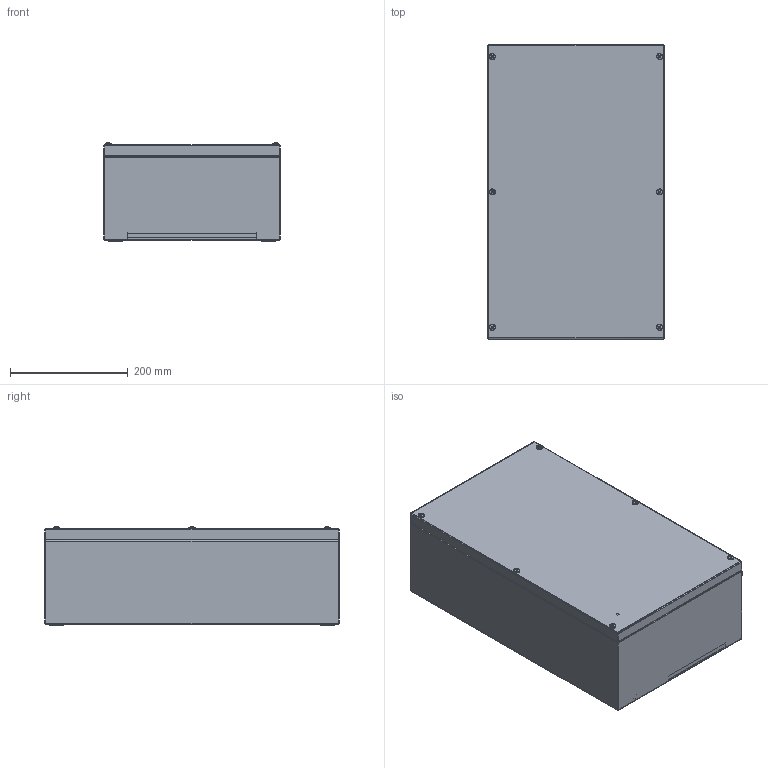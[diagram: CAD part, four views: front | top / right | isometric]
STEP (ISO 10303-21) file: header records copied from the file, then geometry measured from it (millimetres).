
FILE_DESCRIPTION (( 'STEP AP203' ), '1' );
FILE_NAME ('SS JB-500 x 300 x 161-ASSEMBLY.STEP', '2020-03-13T11:32:01', ( '' ), ( '' ), 'SwSTEP 2.0', 'SolidWorks 2018', '' );
FILE_SCHEMA (( 'CONFIG_CONTROL_DESIGN' ));
Length unit declared in the file: millimetre
Products named in the file (7): PLASTIC INSERT FOR FABRICATED ENCLOSURE; SS JB-500 x 300 x 161-LID_500 x 300 x 161; M5 BLIND NUTSERT; Dinral Mounting Channel-300; SS JB-500 x 300 x 161-ASSEMBLY; SS JB-500 x 300 x 161-BASE_500 x 300 x 161; M5X33 LID SCREW
Assembly tree (22 placements, depth 2):
  SS JB-500 x 300 x 161-ASSEMBLY
    SS JB-500 x 300 x 161-BASE_500 x 300 x 161
    Dinral Mounting Channel-300  x2
    SS JB-500 x 300 x 161-LID_500 x 300 x 161
    PLASTIC INSERT FOR FABRICATED ENCLOSURE  x6
    M5 BLIND NUTSERT  x6
    M5X33 LID SCREW  x6
Bounding box: 300 x 500 x 167.66 mm (x, y, z)
Volume: 760460.2 mm3; surface area: 1247281.2 mm2
Topology: 22 solids, 22 shells, 943 faces, 2286 edges, 1432 vertices
Faces by surface type: cylinder 422, plane 317, cone 156, bspline 36, sphere 12
Entity records: 16055 total; most frequent: CARTESIAN_POINT 5030, ORIENTED_EDGE 2064, DIRECTION 1951, EDGE_CURVE 1032, AXIS2_PLACEMENT_3D 684, VERTEX_POINT 626, VECTOR 583, LINE 583
